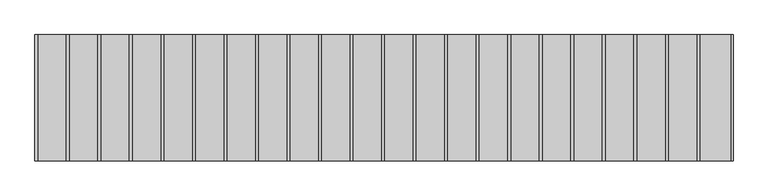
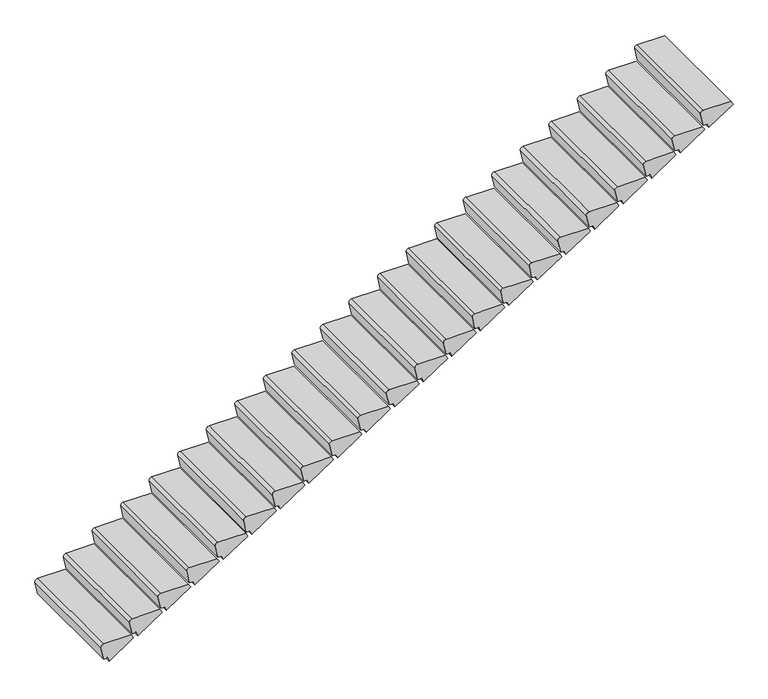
"""IFC4 building model written with IfcOpenShell, lengths in millimetres: stair flight geometry, АР_ГОСТ 8717.1-84_ЛС17."""

from ifc_helpers import new_model, si_unit, point, frame, frame_2d, origin, place, context, project, spatial, polyline, circle_curve, trimmed, segment, composite_curve, outline, extrude, source, transform, mapped, element, save


def stair_flight_5a34b58b(model_context):
    return source(origin(), model_context, "Body", "SweptSolid", [
        extrude(outline(composite_curve([segment(polyline([(9.2727273, -20856.3232804), (9.2727273, -20816.3232804), (-32.7272727, -20799.3232804), (137.2727273, -20543.3232804), (177.2727273, -20566.3232804), (177.2727273, -20856.3232804)]), True, "CONTINUOUS"), segment(trimmed(circle_curve(frame_2d((147.2727273, -20856.3232804)), 30.0), [point((177.2727273, -20856.3232804))], [point((146.6109743, -20886.3159809))], False, "CARTESIAN"), True, "CONTINUOUS"), segment(polyline([(146.6109743, -20886.3159809), (9.2727273, -20856.3232804)]), True, "CONTINUOUS")], self_intersect=False)), frame((0.0, -5267.2365794, 0.0), z_axis=(0.0, 1.0, 0.0), x_axis=(0.0, 0.0, 1.0)), (0.0, 0.0, 1.0), 1200.0),
        extrude(outline(composite_curve([segment(polyline([(186.5454545, -20556.3232804), (186.5454545, -20516.3232804), (144.5454545, -20499.3232804), (314.5454545, -20243.3232804), (354.5454545, -20266.3232804), (354.5454545, -20556.3232804)]), True, "CONTINUOUS"), segment(trimmed(circle_curve(frame_2d((324.5454545, -20556.3232804)), 30.0), [point((354.5454545, -20556.3232804))], [point((323.8837016, -20586.3159809))], False, "CARTESIAN"), True, "CONTINUOUS"), segment(polyline([(323.8837016, -20586.3159809), (186.5454545, -20556.3232804)]), True, "CONTINUOUS")], self_intersect=False)), frame((0.0, -5267.2365794, 0.0), z_axis=(0.0, 1.0, 0.0), x_axis=(0.0, 0.0, 1.0)), (0.0, 0.0, 1.0), 1200.0),
        extrude(outline(composite_curve([segment(polyline([(363.8181818, -20256.3232804), (363.8181818, -20216.3232804), (321.8181818, -20199.3232804), (491.8181818, -19943.3232804), (531.8181818, -19966.3232804), (531.8181818, -20256.3232804)]), True, "CONTINUOUS"), segment(trimmed(circle_curve(frame_2d((501.8181818, -20256.3232804)), 30.0), [point((531.8181818, -20256.3232804))], [point((501.1564288, -20286.3159809))], False, "CARTESIAN"), True, "CONTINUOUS"), segment(polyline([(501.1564288, -20286.3159809), (363.8181818, -20256.3232804)]), True, "CONTINUOUS")], self_intersect=False)), frame((0.0, -5267.2365794, 0.0), z_axis=(0.0, 1.0, 0.0), x_axis=(0.0, 0.0, 1.0)), (0.0, 0.0, 1.0), 1200.0),
        extrude(outline(composite_curve([segment(polyline([(541.0909091, -19956.3232804), (541.0909091, -19916.3232804), (499.0909091, -19899.3232804), (669.0909091, -19643.3232804), (709.0909091, -19666.3232804), (709.0909091, -19956.3232804)]), True, "CONTINUOUS"), segment(trimmed(circle_curve(frame_2d((679.0909091, -19956.3232804)), 30.0), [point((709.0909091, -19956.3232804))], [point((678.4291561, -19986.3159809))], False, "CARTESIAN"), True, "CONTINUOUS"), segment(polyline([(678.4291561, -19986.3159809), (541.0909091, -19956.3232804)]), True, "CONTINUOUS")], self_intersect=False)), frame((0.0, -5267.2365794, 0.0), z_axis=(0.0, 1.0, 0.0), x_axis=(0.0, 0.0, 1.0)), (0.0, 0.0, 1.0), 1200.0),
        extrude(outline(composite_curve([segment(polyline([(718.3636364, -19656.3232804), (718.3636364, -19616.3232804), (676.3636364, -19599.3232804), (846.3636364, -19343.3232804), (886.3636364, -19366.3232804), (886.3636364, -19656.3232804)]), True, "CONTINUOUS"), segment(trimmed(circle_curve(frame_2d((856.3636364, -19656.3232804)), 30.0), [point((886.3636364, -19656.3232804))], [point((855.7018834, -19686.3159809))], False, "CARTESIAN"), True, "CONTINUOUS"), segment(polyline([(855.7018834, -19686.3159809), (718.3636364, -19656.3232804)]), True, "CONTINUOUS")], self_intersect=False)), frame((0.0, -5267.2365794, 0.0), z_axis=(0.0, 1.0, 0.0), x_axis=(0.0, 0.0, 1.0)), (0.0, 0.0, 1.0), 1200.0),
        extrude(outline(composite_curve([segment(polyline([(895.6363636, -19356.3232804), (895.6363636, -19316.3232804), (853.6363636, -19299.3232804), (1023.6363636, -19043.3232804), (1063.6363636, -19066.3232804), (1063.6363636, -19356.3232804)]), True, "CONTINUOUS"), segment(trimmed(circle_curve(frame_2d((1033.6363636, -19356.3232804)), 30.0), [point((1063.6363636, -19356.3232804))], [point((1032.9746106, -19386.3159809))], False, "CARTESIAN"), True, "CONTINUOUS"), segment(polyline([(1032.9746106, -19386.3159809), (895.6363636, -19356.3232804)]), True, "CONTINUOUS")], self_intersect=False)), frame((0.0, -5267.2365794, 0.0), z_axis=(0.0, 1.0, 0.0), x_axis=(0.0, 0.0, 1.0)), (0.0, 0.0, 1.0), 1200.0),
        extrude(outline(composite_curve([segment(polyline([(1072.9090909, -19056.3232804), (1072.9090909, -19016.3232804), (1030.9090909, -18999.3232804), (1200.9090909, -18743.3232804), (1240.9090909, -18766.3232804), (1240.9090909, -19056.3232804)]), True, "CONTINUOUS"), segment(trimmed(circle_curve(frame_2d((1210.9090909, -19056.3232804)), 30.0), [point((1240.9090909, -19056.3232804))], [point((1210.2473379, -19086.3159809))], False, "CARTESIAN"), True, "CONTINUOUS"), segment(polyline([(1210.2473379, -19086.3159809), (1072.9090909, -19056.3232804)]), True, "CONTINUOUS")], self_intersect=False)), frame((0.0, -5267.2365794, 0.0), z_axis=(0.0, 1.0, 0.0), x_axis=(0.0, 0.0, 1.0)), (0.0, 0.0, 1.0), 1200.0),
        extrude(outline(composite_curve([segment(polyline([(1250.1818182, -18756.3232804), (1250.1818182, -18716.3232804), (1208.1818182, -18699.3232804), (1378.1818182, -18443.3232804), (1418.1818182, -18466.3232804), (1418.1818182, -18756.3232804)]), True, "CONTINUOUS"), segment(trimmed(circle_curve(frame_2d((1388.1818182, -18756.3232804)), 30.0), [point((1418.1818182, -18756.3232804))], [point((1387.5200652, -18786.3159809))], False, "CARTESIAN"), True, "CONTINUOUS"), segment(polyline([(1387.5200652, -18786.3159809), (1250.1818182, -18756.3232804)]), True, "CONTINUOUS")], self_intersect=False)), frame((0.0, -5267.2365794, 0.0), z_axis=(0.0, 1.0, 0.0), x_axis=(0.0, 0.0, 1.0)), (0.0, 0.0, 1.0), 1200.0),
        extrude(outline(composite_curve([segment(polyline([(1427.4545455, -18456.3232804), (1427.4545455, -18416.3232804), (1385.4545455, -18399.3232804), (1555.4545455, -18143.3232804), (1595.4545455, -18166.3232804), (1595.4545455, -18456.3232804)]), True, "CONTINUOUS"), segment(trimmed(circle_curve(frame_2d((1565.4545455, -18456.3232804)), 30.0), [point((1595.4545455, -18456.3232804))], [point((1564.7927925, -18486.3159809))], False, "CARTESIAN"), True, "CONTINUOUS"), segment(polyline([(1564.7927925, -18486.3159809), (1427.4545455, -18456.3232804)]), True, "CONTINUOUS")], self_intersect=False)), frame((0.0, -5267.2365794, 0.0), z_axis=(0.0, 1.0, 0.0), x_axis=(0.0, 0.0, 1.0)), (0.0, 0.0, 1.0), 1200.0),
        extrude(outline(composite_curve([segment(polyline([(1604.7272727, -18156.3232804), (1604.7272727, -18116.3232804), (1562.7272727, -18099.3232804), (1732.7272727, -17843.3232804), (1772.7272727, -17866.3232804), (1772.7272727, -18156.3232804)]), True, "CONTINUOUS"), segment(trimmed(circle_curve(frame_2d((1742.7272727, -18156.3232804)), 30.0), [point((1772.7272727, -18156.3232804))], [point((1742.0655197, -18186.3159809))], False, "CARTESIAN"), True, "CONTINUOUS"), segment(polyline([(1742.0655197, -18186.3159809), (1604.7272727, -18156.3232804)]), True, "CONTINUOUS")], self_intersect=False)), frame((0.0, -5267.2365794, 0.0), z_axis=(0.0, 1.0, 0.0), x_axis=(0.0, 0.0, 1.0)), (0.0, 0.0, 1.0), 1200.0),
        extrude(outline(composite_curve([segment(polyline([(1782.0, -17856.3232804), (1782.0, -17816.3232804), (1740.0, -17799.3232804), (1910.0, -17543.3232804), (1950.0, -17566.3232804), (1950.0, -17856.3232804)]), True, "CONTINUOUS"), segment(trimmed(circle_curve(frame_2d((1920.0, -17856.3232804)), 30.0), [point((1950.0, -17856.3232804))], [point((1919.338247, -17886.3159809))], False, "CARTESIAN"), True, "CONTINUOUS"), segment(polyline([(1919.338247, -17886.3159809), (1782.0, -17856.3232804)]), True, "CONTINUOUS")], self_intersect=False)), frame((0.0, -5267.2365794, 0.0), z_axis=(0.0, 1.0, 0.0), x_axis=(0.0, 0.0, 1.0)), (0.0, 0.0, 1.0), 1200.0),
        extrude(outline(composite_curve([segment(polyline([(1959.2727273, -17556.3232804), (1959.2727273, -17516.3232804), (1917.2727273, -17499.3232804), (2087.2727273, -17243.3232804), (2127.2727273, -17266.3232804), (2127.2727273, -17556.3232804)]), True, "CONTINUOUS"), segment(trimmed(circle_curve(frame_2d((2097.2727273, -17556.3232804)), 30.0), [point((2127.2727273, -17556.3232804))], [point((2096.6109743, -17586.3159809))], False, "CARTESIAN"), True, "CONTINUOUS"), segment(polyline([(2096.6109743, -17586.3159809), (1959.2727273, -17556.3232804)]), True, "CONTINUOUS")], self_intersect=False)), frame((0.0, -5267.2365794, 0.0), z_axis=(0.0, 1.0, 0.0), x_axis=(0.0, 0.0, 1.0)), (0.0, 0.0, 1.0), 1200.0),
        extrude(outline(composite_curve([segment(polyline([(2136.5454545, -17256.3232804), (2136.5454545, -17216.3232804), (2094.5454545, -17199.3232804), (2264.5454545, -16943.3232804), (2304.5454545, -16966.3232804), (2304.5454545, -17256.3232804)]), True, "CONTINUOUS"), segment(trimmed(circle_curve(frame_2d((2274.5454545, -17256.3232804)), 30.0), [point((2304.5454545, -17256.3232804))], [point((2273.8837016, -17286.3159809))], False, "CARTESIAN"), True, "CONTINUOUS"), segment(polyline([(2273.8837016, -17286.3159809), (2136.5454545, -17256.3232804)]), True, "CONTINUOUS")], self_intersect=False)), frame((0.0, -5267.2365794, 0.0), z_axis=(0.0, 1.0, 0.0), x_axis=(0.0, 0.0, 1.0)), (0.0, 0.0, 1.0), 1200.0),
        extrude(outline(composite_curve([segment(polyline([(2313.8181818, -16956.3232804), (2313.8181818, -16916.3232804), (2271.8181818, -16899.3232804), (2441.8181818, -16643.3232804), (2481.8181818, -16666.3232804), (2481.8181818, -16956.3232804)]), True, "CONTINUOUS"), segment(trimmed(circle_curve(frame_2d((2451.8181818, -16956.3232804)), 30.0), [point((2481.8181818, -16956.3232804))], [point((2451.1564288, -16986.3159809))], False, "CARTESIAN"), True, "CONTINUOUS"), segment(polyline([(2451.1564288, -16986.3159809), (2313.8181818, -16956.3232804)]), True, "CONTINUOUS")], self_intersect=False)), frame((0.0, -5267.2365794, 0.0), z_axis=(0.0, 1.0, 0.0), x_axis=(0.0, 0.0, 1.0)), (0.0, 0.0, 1.0), 1200.0),
        extrude(outline(composite_curve([segment(polyline([(2491.0909091, -16656.3232804), (2491.0909091, -16616.3232804), (2449.0909091, -16599.3232804), (2619.0909091, -16343.3232804), (2659.0909091, -16366.3232804), (2659.0909091, -16656.3232804)]), True, "CONTINUOUS"), segment(trimmed(circle_curve(frame_2d((2629.0909091, -16656.3232804)), 30.0), [point((2659.0909091, -16656.3232804))], [point((2628.4291561, -16686.3159809))], False, "CARTESIAN"), True, "CONTINUOUS"), segment(polyline([(2628.4291561, -16686.3159809), (2491.0909091, -16656.3232804)]), True, "CONTINUOUS")], self_intersect=False)), frame((0.0, -5267.2365794, 0.0), z_axis=(0.0, 1.0, 0.0), x_axis=(0.0, 0.0, 1.0)), (0.0, 0.0, 1.0), 1200.0),
        extrude(outline(composite_curve([segment(polyline([(2668.3636364, -16356.3232804), (2668.3636364, -16316.3232804), (2626.3636364, -16299.3232804), (2796.3636364, -16043.3232804), (2836.3636364, -16066.3232804), (2836.3636364, -16356.3232804)]), True, "CONTINUOUS"), segment(trimmed(circle_curve(frame_2d((2806.3636364, -16356.3232804)), 30.0), [point((2836.3636364, -16356.3232804))], [point((2805.7018834, -16386.3159809))], False, "CARTESIAN"), True, "CONTINUOUS"), segment(polyline([(2805.7018834, -16386.3159809), (2668.3636364, -16356.3232804)]), True, "CONTINUOUS")], self_intersect=False)), frame((0.0, -5267.2365794, 0.0), z_axis=(0.0, 1.0, 0.0), x_axis=(0.0, 0.0, 1.0)), (0.0, 0.0, 1.0), 1200.0),
        extrude(outline(composite_curve([segment(polyline([(2845.6363636, -16056.3232804), (2845.6363636, -16016.3232804), (2803.6363636, -15999.3232804), (2973.6363636, -15743.3232804), (3013.6363636, -15766.3232804), (3013.6363636, -16056.3232804)]), True, "CONTINUOUS"), segment(trimmed(circle_curve(frame_2d((2983.6363636, -16056.3232804)), 30.0), [point((3013.6363636, -16056.3232804))], [point((2982.9746106, -16086.3159809))], False, "CARTESIAN"), True, "CONTINUOUS"), segment(polyline([(2982.9746106, -16086.3159809), (2845.6363636, -16056.3232804)]), True, "CONTINUOUS")], self_intersect=False)), frame((0.0, -5267.2365794, 0.0), z_axis=(0.0, 1.0, 0.0), x_axis=(0.0, 0.0, 1.0)), (0.0, 0.0, 1.0), 1200.0),
        extrude(outline(composite_curve([segment(polyline([(3022.9090909, -15756.3232804), (3022.9090909, -15716.3232804), (2980.9090909, -15699.3232804), (3150.9090909, -15443.3232804), (3190.9090909, -15466.3232804), (3190.9090909, -15756.3232804)]), True, "CONTINUOUS"), segment(trimmed(circle_curve(frame_2d((3160.9090909, -15756.3232804)), 30.0), [point((3190.9090909, -15756.3232804))], [point((3160.2473379, -15786.3159809))], False, "CARTESIAN"), True, "CONTINUOUS"), segment(polyline([(3160.2473379, -15786.3159809), (3022.9090909, -15756.3232804)]), True, "CONTINUOUS")], self_intersect=False)), frame((0.0, -5267.2365794, 0.0), z_axis=(0.0, 1.0, 0.0), x_axis=(0.0, 0.0, 1.0)), (0.0, 0.0, 1.0), 1200.0),
        extrude(outline(composite_curve([segment(polyline([(3200.1818182, -15456.3232804), (3200.1818182, -15416.3232804), (3158.1818182, -15399.3232804), (3328.1818182, -15143.3232804), (3368.1818182, -15166.3232804), (3368.1818182, -15456.3232804)]), True, "CONTINUOUS"), segment(trimmed(circle_curve(frame_2d((3338.1818182, -15456.3232804)), 30.0), [point((3368.1818182, -15456.3232804))], [point((3337.5200652, -15486.3159809))], False, "CARTESIAN"), True, "CONTINUOUS"), segment(polyline([(3337.5200652, -15486.3159809), (3200.1818182, -15456.3232804)]), True, "CONTINUOUS")], self_intersect=False)), frame((0.0, -5267.2365794, 0.0), z_axis=(0.0, 1.0, 0.0), x_axis=(0.0, 0.0, 1.0)), (0.0, 0.0, 1.0), 1200.0),
        extrude(outline(composite_curve([segment(polyline([(3377.4545455, -15156.3232804), (3377.4545455, -15116.3232804), (3335.4545455, -15099.3232804), (3505.4545455, -14843.3232804), (3545.4545455, -14866.3232804), (3545.4545455, -15156.3232804)]), True, "CONTINUOUS"), segment(trimmed(circle_curve(frame_2d((3515.4545455, -15156.3232804)), 30.0), [point((3545.4545455, -15156.3232804))], [point((3514.7927925, -15186.3159809))], False, "CARTESIAN"), True, "CONTINUOUS"), segment(polyline([(3514.7927925, -15186.3159809), (3377.4545455, -15156.3232804)]), True, "CONTINUOUS")], self_intersect=False)), frame((0.0, -5267.2365794, 0.0), z_axis=(0.0, 1.0, 0.0), x_axis=(0.0, 0.0, 1.0)), (0.0, 0.0, 1.0), 1200.0),
        extrude(outline(composite_curve([segment(polyline([(3554.7272727, -14856.3232804), (3554.7272727, -14816.3232804), (3512.7272727, -14799.3232804), (3682.7272727, -14543.3232804), (3722.7272727, -14566.3232804), (3722.7272727, -14856.3232804)]), True, "CONTINUOUS"), segment(trimmed(circle_curve(frame_2d((3692.7272727, -14856.3232804)), 30.0), [point((3722.7272727, -14856.3232804))], [point((3692.0655197, -14886.3159809))], False, "CARTESIAN"), True, "CONTINUOUS"), segment(polyline([(3692.0655197, -14886.3159809), (3554.7272727, -14856.3232804)]), True, "CONTINUOUS")], self_intersect=False)), frame((0.0, -5267.2365794, 0.0), z_axis=(0.0, 1.0, 0.0), x_axis=(0.0, 0.0, 1.0)), (0.0, 0.0, 1.0), 1200.0),
        extrude(outline(composite_curve([segment(polyline([(3732.0, -14556.3232804), (3732.0, -14516.3232804), (3690.0, -14499.3232804), (3860.0, -14243.3232804), (3900.0, -14266.3232804), (3900.0, -14556.3232804)]), True, "CONTINUOUS"), segment(trimmed(circle_curve(frame_2d((3870.0, -14556.3232804)), 30.0), [point((3900.0, -14556.3232804))], [point((3869.338247, -14586.3159809))], False, "CARTESIAN"), True, "CONTINUOUS"), segment(polyline([(3869.338247, -14586.3159809), (3732.0, -14556.3232804)]), True, "CONTINUOUS")], self_intersect=False)), frame((0.0, -5267.2365794, 0.0), z_axis=(0.0, 1.0, 0.0), x_axis=(0.0, 0.0, 1.0)), (0.0, 0.0, 1.0), 1200.0),
    ])


if __name__ == "__main__":
    model = new_model("IFC4")
    model_context = context("Model", 3, world=origin())
    ifc_project = project(units=[si_unit("LENGTHUNIT", "METRE", prefix="MILLI")], contexts=[model_context])
    site = spatial("IfcSite", under=ifc_project)
    building = spatial("IfcBuilding", under=site)
    placement = place(None, origin())
    stair_flight_shape = stair_flight_5a34b58b(model_context)
    element("IfcStairFlight", 1, ObjectType="АР_ГОСТ 8717.1-84_ЛС17", at=placement, inside=building, context=model_context, shape_type="MappedRepresentation", body=[
        mapped(stair_flight_shape, transform((0.0, 0.0, 0.0), x_axis=(1.0, 0.0, 0.0), y_axis=(0.0, 1.0, 0.0), z_axis=(0.0, 0.0, 1.0))),
    ])
    save(model, "model.ifc")
